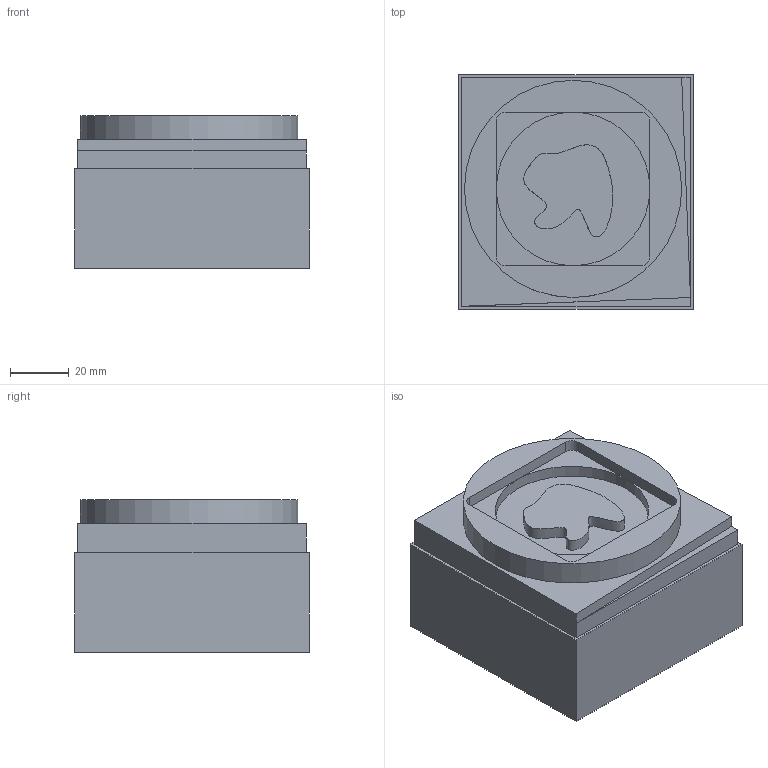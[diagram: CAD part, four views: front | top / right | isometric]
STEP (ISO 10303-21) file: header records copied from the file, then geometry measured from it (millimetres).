
FILE_DESCRIPTION(/* description */ (''),/* implementation_level */ '2;1');
FILE_NAME(/* name */ '10.step',/* time_stamp */ '2025-09-02T11:28:46+02:00',/* author */ (''),/* organization */ (''),/* preprocessor_version */ 'ST-DEVELOPER v20.1',/* originating_system */ 'Autodesk Translation Framework v14.10.0.0',/* authorisation */ '');
FILE_SCHEMA (('AUTOMOTIVE_DESIGN { 1 0 10303 214 3 1 1 }'));
Length unit declared in the file: millimetre
Products named in the file (1): Stufe 9
Bounding box: 80 x 80 x 52 mm (x, y, z)
Volume: 294978.2 mm3; surface area: 30564.7 mm2
Topology: 1 solids, 1 shells, 33 faces, 73 edges, 46 vertices
Faces by surface type: plane 26, cylinder 6, bspline 1
Full cylindrical faces by diameter (mm): 52.326 x1, 74 x1
Entity records: 1198 total; most frequent: CARTESIAN_POINT 430, DIRECTION 152, ORIENTED_EDGE 146, EDGE_CURVE 73, LINE 56, VECTOR 56, AXIS2_PLACEMENT_3D 48, VERTEX_POINT 46
